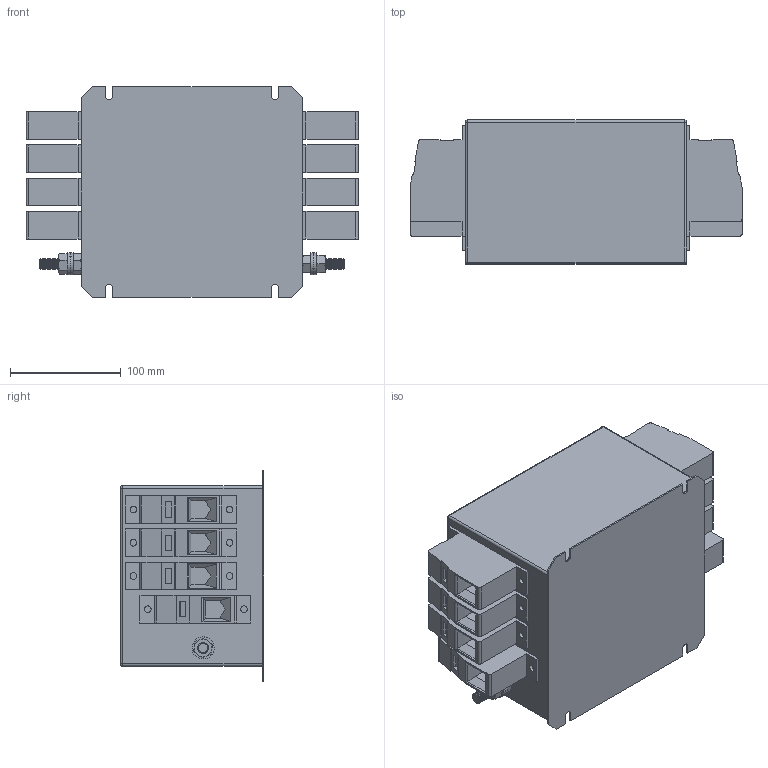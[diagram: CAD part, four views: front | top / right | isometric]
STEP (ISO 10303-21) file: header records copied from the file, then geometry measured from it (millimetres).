
FILE_DESCRIPTION (( 'STEP AP203' ), '1' );
FILE_NAME ('NF-4-160-FTN.STEP', '2018-02-14T10:39:13', ( '' ), ( '' ), 'SwSTEP 2.0', 'SolidWorks 2017', '' );
FILE_SCHEMA (( 'CONFIG_CONTROL_DESIGN' ));
Length unit declared in the file: millimetre
Products named in the file (7): FTN-160; hex nut style 1_am_B18.2.4.1M - Hex nut, Style 1,  M10 x 1.5, with 16mm WAF --D-N; HDFK-95; NF-4-160-FTN; M10x30 Earth post; flat washer narrow_am_B18.22M - Plain washer, 10 mm, narrow; hex screw_am_B18.6.7M - M10 x 1.5 x 30 Indented HHMS --30S
Assembly tree (15 placements, depth 3):
  NF-4-160-FTN
    FTN-160
    M10x30 Earth post  x2
      flat washer narrow_am_B18.22M - Plain washer, 10 mm, narrow
      hex nut style 1_am_B18.2.4.1M - Hex nut, Style 1,  M10 x 1.5, with 16mm WAF --D-N
      hex screw_am_B18.6.7M - M10 x 1.5 x 30 Indented HHMS --30S
    HDFK-95  x8
Bounding box: 300 x 130 x 190 mm (x, y, z)
Volume: 4733961.1 mm3; surface area: 454701.3 mm2
Topology: 18 solids, 18 shells, 1064 faces, 2708 edges, 1736 vertices
Faces by surface type: plane 632, cylinder 228, cone 200, sphere 4
Entity records: 10677 total; most frequent: CARTESIAN_POINT 1844, DIRECTION 1728, ORIENTED_EDGE 1600, EDGE_CURVE 800, AXIS2_PLACEMENT_3D 630, VERTEX_POINT 506, VECTOR 468, LINE 468
